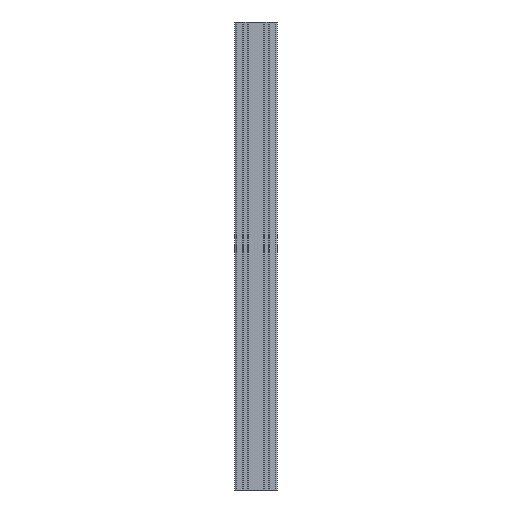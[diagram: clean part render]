
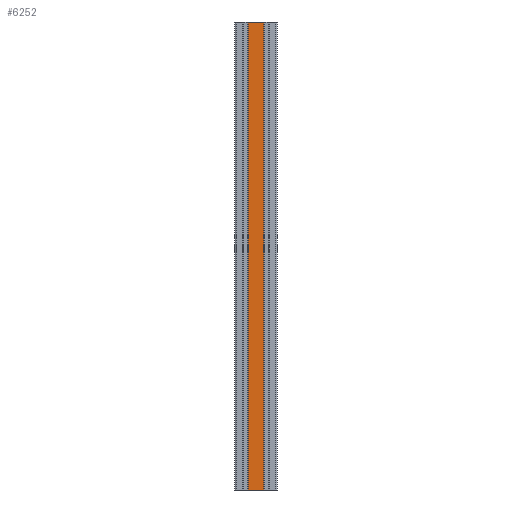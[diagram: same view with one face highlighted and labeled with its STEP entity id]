
A CAD part, front view. The second image highlights one B-rep face of the part: STEP entity #6252.
In plain terms, the highlighted planar face has unit normal (0, -1, 0).
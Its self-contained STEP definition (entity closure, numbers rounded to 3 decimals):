
#25 = PLANE ( 'NONE',  #6411 ) ;
#137 = CARTESIAN_POINT ( 'NONE',  ( 39.5, -22.5, -1000. ) ) ;
#589 = DIRECTION ( 'NONE',  ( 0., -1., 0. ) ) ;
#709 = EDGE_LOOP ( 'NONE', ( #6645, #7363, #3187, #5364 ) ) ;
#1037 = VECTOR ( 'NONE', #6184, 1000. ) ;
#1217 = CARTESIAN_POINT ( 'NONE',  ( 5.5, -22.5, 0. ) ) ;
#1401 = CARTESIAN_POINT ( 'NONE',  ( 5.5, -22.5, 0. ) ) ;
#1503 = DIRECTION ( 'NONE',  ( 1., 0., 0. ) ) ;
#1558 = VERTEX_POINT ( 'NONE', #2505 ) ;
#1746 = VERTEX_POINT ( 'NONE', #4463 ) ;
#1857 = EDGE_CURVE ( 'NONE', #4076, #1558, #4141, .T. ) ;
#2505 = CARTESIAN_POINT ( 'NONE',  ( 39.5, -22.5, 0. ) ) ;
#2571 = EDGE_CURVE ( 'NONE', #4615, #1746, #6999, .T. ) ;
#3187 = ORIENTED_EDGE ( 'NONE', *, *, #2571, .T. ) ;
#3342 = VECTOR ( 'NONE', #5967, 1000. ) ;
#3878 = VECTOR ( 'NONE', #6487, 1000. ) ;
#4076 = VERTEX_POINT ( 'NONE', #1217 ) ;
#4120 = CARTESIAN_POINT ( 'NONE',  ( 5.5, -22.5, -1000. ) ) ;
#4141 = LINE ( 'NONE', #1401, #6127 ) ;
#4226 = CARTESIAN_POINT ( 'NONE',  ( 5.5, -22.5, -1000. ) ) ;
#4463 = CARTESIAN_POINT ( 'NONE',  ( 39.5, -22.5, -1000. ) ) ;
#4615 = VERTEX_POINT ( 'NONE', #4120 ) ;
#4667 = DIRECTION ( 'NONE',  ( 1., 0., 0. ) ) ;
#5364 = ORIENTED_EDGE ( 'NONE', *, *, #6675, .T. ) ;
#5967 = DIRECTION ( 'NONE',  ( 0., 0., 1. ) ) ;
#6127 = VECTOR ( 'NONE', #1503, 1000. ) ;
#6184 = DIRECTION ( 'NONE',  ( 1., 0., 0. ) ) ;
#6201 = CARTESIAN_POINT ( 'NONE',  ( 5.5, -22.5, -1000. ) ) ;
#6252 = ADVANCED_FACE ( 'NONE', ( #6540 ), #25, .T. ) ;
#6390 = LINE ( 'NONE', #4226, #3342 ) ;
#6411 = AXIS2_PLACEMENT_3D ( 'NONE', #6940, #589, #4667 ) ;
#6487 = DIRECTION ( 'NONE',  ( 0., 0., 1. ) ) ;
#6540 = FACE_OUTER_BOUND ( 'NONE', #709, .T. ) ;
#6645 = ORIENTED_EDGE ( 'NONE', *, *, #1857, .F. ) ;
#6675 = EDGE_CURVE ( 'NONE', #1746, #1558, #6925, .T. ) ;
#6718 = EDGE_CURVE ( 'NONE', #4615, #4076, #6390, .T. ) ;
#6925 = LINE ( 'NONE', #137, #3878 ) ;
#6940 = CARTESIAN_POINT ( 'NONE',  ( 5.5, -22.5, -1000. ) ) ;
#6999 = LINE ( 'NONE', #6201, #1037 ) ;
#7363 = ORIENTED_EDGE ( 'NONE', *, *, #6718, .F. ) ;
